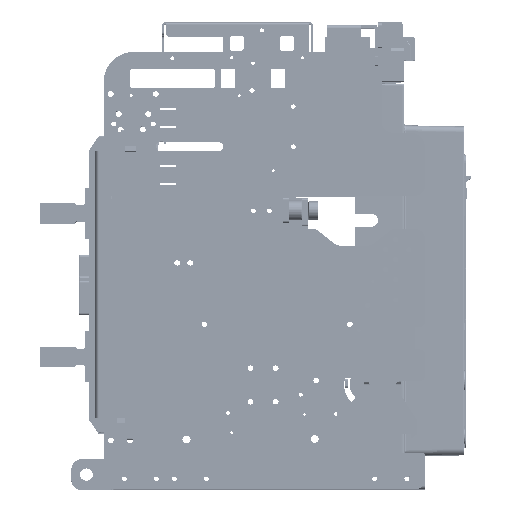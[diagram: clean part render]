
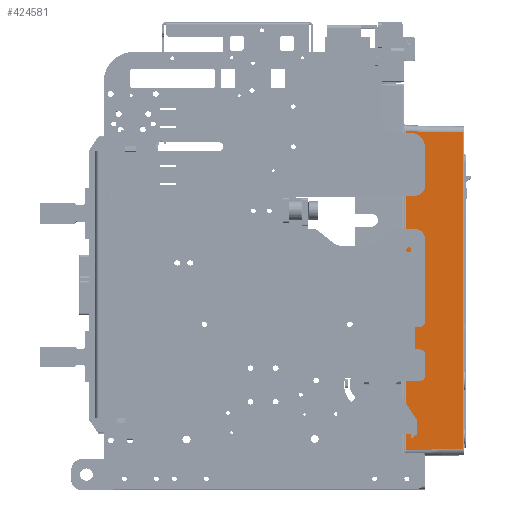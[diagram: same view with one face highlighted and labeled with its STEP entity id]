
A CAD part, top view. The second image highlights one B-rep face of the part: STEP entity #424581.
In plain terms, the highlighted planar face has unit normal (0.018, 0, 1) as drawn and (-1, 0, 0.017) by its records, which use the part's own axes.
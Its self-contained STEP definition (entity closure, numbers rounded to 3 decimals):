
#405961=DIRECTION('',(0.,-1.,0.));
#405962=VECTOR('',#405961,315.942);
#405963=CARTESIAN_POINT('',(-133.97,144.321,
108.017));
#405964=LINE('',#405963,#405962);
#405965=DIRECTION('',(0.017,0.017,1.));
#405966=VECTOR('',#405965,57.07);
#405967=CARTESIAN_POINT('',(-134.966,-172.617,
50.965));
#405968=LINE('',#405967,#405966);
#405969=DIRECTION('',(0.,1.,0.));
#405970=VECTOR('',#405969,317.934);
#405971=CARTESIAN_POINT('',(-134.966,-172.617,
50.965));
#405972=LINE('',#405971,#405970);
#405973=DIRECTION('',(-0.017,0.017,-1.));
#405974=VECTOR('',#405973,57.07);
#405975=CARTESIAN_POINT('',(-133.97,144.321,
108.017));
#405976=LINE('',#405975,#405974);
#420565=CARTESIAN_POINT('',(-133.97,144.321,
108.017));
#423556=CARTESIAN_POINT('',(-134.966,-172.617,
50.965));
#423557=CARTESIAN_POINT('',(-134.966,145.317,
50.965));
#423558=VERTEX_POINT('',#423556);
#423559=VERTEX_POINT('',#423557);
#423597=VERTEX_POINT('',#420565);
#423600=CARTESIAN_POINT('',(-133.97,-171.621,
108.017));
#423601=VERTEX_POINT('',#423600);
#424567=CARTESIAN_POINT('',(-135.,151.35,49.));
#424568=DIRECTION('',(-1.,0.,0.017));
#424569=DIRECTION('',(0.,-1.,0.));
#424570=AXIS2_PLACEMENT_3D('',#424567,#424568,#424569);
#424571=PLANE('',#424570);
#424573=ORIENTED_EDGE('',*,*,#424572,.T.);
#424575=ORIENTED_EDGE('',*,*,#424574,.F.);
#424576=ORIENTED_EDGE('',*,*,#424557,.T.);
#424578=ORIENTED_EDGE('',*,*,#424577,.F.);
#424579=EDGE_LOOP('',(#424573,#424575,#424576,#424578));
#424580=FACE_OUTER_BOUND('',#424579,.F.);
#424581=ADVANCED_FACE('',(#424580),#424571,.T.);
#424557=EDGE_CURVE('',#423558,#423559,#405972,.T.);
#424572=EDGE_CURVE('',#423597,#423601,#405964,.T.);
#424574=EDGE_CURVE('',#423558,#423601,#405968,.T.);
#424577=EDGE_CURVE('',#423597,#423559,#405976,.T.);
